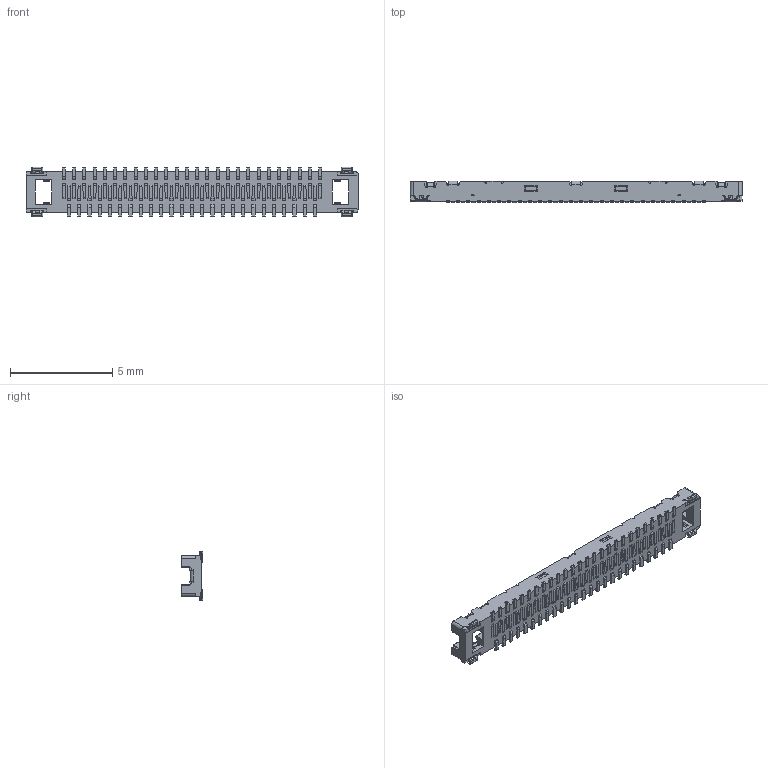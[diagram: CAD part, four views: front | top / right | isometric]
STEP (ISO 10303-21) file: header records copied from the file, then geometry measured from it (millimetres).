
FILE_DESCRIPTION (( 'STEP AP203' ), '1' );
FILE_NAME ('20533-050EC RECE ASS''Y STEP R3 ALL .STEP', '2014-06-12T12:35:34', ( '' ), ( '' ), 'SwSTEP 2.0', 'SolidWorks 2012', '' );
FILE_SCHEMA (( 'CONFIG_CONTROL_DESIGN' ));
Length unit declared in the file: millimetre
Products named in the file (1): 20533-050EC RECE ASS''Y STEP R3 ALL 
Bounding box: 16.2 x 1.04 x 2.4 mm (x, y, z)
Volume: 16.8 mm3; surface area: 127.8 mm2
Topology: 1 solids, 5 shells, 1507 faces, 4082 edges, 2596 vertices
Faces by surface type: plane 1171, cylinder 306, cone 14, torus 8, sphere 8
Entity records: 46511 total; most frequent: CARTESIAN_POINT 8332, ORIENTED_EDGE 8100, DIRECTION 7678, EDGE_CURVE 4050, VECTOR 3342, LINE 3342, VERTEX_POINT 2588, AXIS2_PLACEMENT_3D 2168
